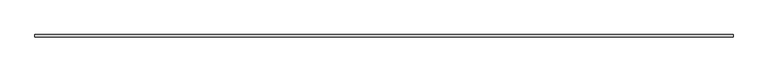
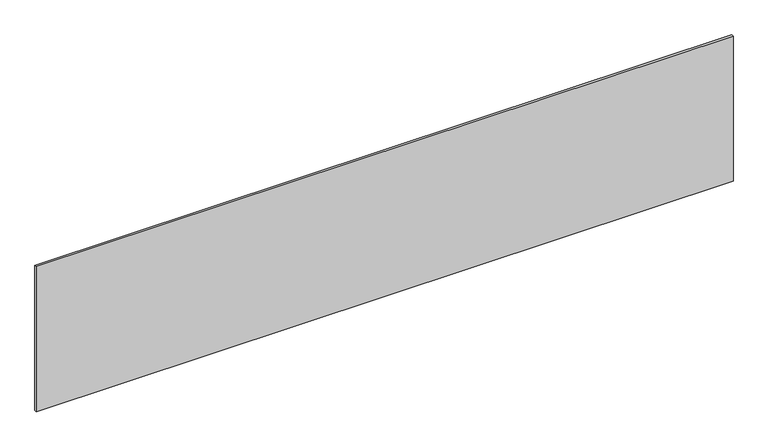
"""IFC4 building model written with IfcOpenShell, lengths in millimetres: proxy geometry, SU.HS.FOOT.3000."""

from ifc_helpers import new_model, si_unit, frame, origin, place, context, project, spatial, polyline, outline, extrude, source, transform, mapped, element, save


def generic_models_b01f7c66(model_context):
    return source(origin(), model_context, "Body", "SweptSolid", [
        extrude(outline(polyline([(-1589.0, 0.0), (1589.0, 0.0), (1589.0, -10.0), (-1589.0, -10.0), (-1589.0, 0.0)])), frame((0.0, 0.0, -100.0), z_axis=(0.0, 0.0, 1.0), x_axis=(1.0, 0.0, 0.0)), (0.0, 0.0, 1.0), 700.0),
    ])


if __name__ == "__main__":
    model = new_model("IFC4")
    model_context = context("Model", 3, world=origin())
    ifc_project = project(units=[si_unit("LENGTHUNIT", "METRE", prefix="MILLI")], contexts=[model_context])
    site = spatial("IfcSite", under=ifc_project)
    building = spatial("IfcBuilding", under=site)
    placement = place(None, origin())
    generic_models_shape = generic_models_b01f7c66(model_context)
    element("IfcBuildingElementProxy", 1, Name="SU.HS.FOOT.3000", ObjectType="SU.HS.FOOT.3000", at=placement, inside=building, context=model_context, shape_type="MappedRepresentation", body=[
        mapped(generic_models_shape, transform((0.0, 0.0, 0.0), x_axis=(1.0, 0.0, 0.0), y_axis=(0.0, 1.0, 0.0), z_axis=(0.0, 0.0, 1.0))),
    ])
    save(model, "model.ifc")
